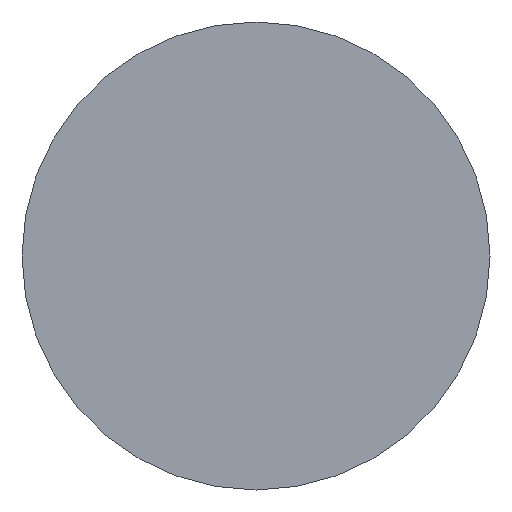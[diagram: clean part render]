
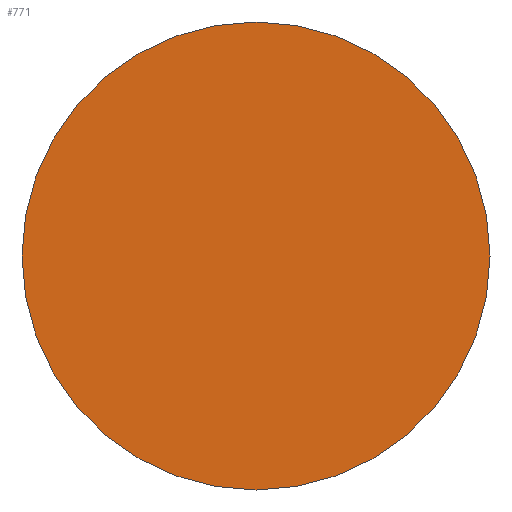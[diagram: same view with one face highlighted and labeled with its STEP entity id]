
A CAD part, left-side view. The second image highlights one B-rep face of the part: STEP entity #771.
In plain terms, the highlighted planar face has unit normal (-1, 0, 0).
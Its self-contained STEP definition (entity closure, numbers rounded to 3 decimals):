
#80=FACE_OUTER_BOUND('',#121,.T.);
#121=EDGE_LOOP('',(#634,#635));
#239=CIRCLE('',#879,2.745);
#240=CIRCLE('',#880,2.745);
#332=VERTEX_POINT('',#1441);
#333=VERTEX_POINT('',#1442);
#441=EDGE_CURVE('',#332,#333,#239,.T.);
#442=EDGE_CURVE('',#333,#332,#240,.T.);
#634=ORIENTED_EDGE('',*,*,#441,.F.);
#635=ORIENTED_EDGE('',*,*,#442,.F.);
#747=PLANE('',#878);
#771=ADVANCED_FACE('',(#80),#747,.T.);
#878=AXIS2_PLACEMENT_3D('',#1440,#1095,#1096);
#879=AXIS2_PLACEMENT_3D('',#1443,#1097,#1098);
#880=AXIS2_PLACEMENT_3D('',#1444,#1099,#1100);
#1095=DIRECTION('center_axis',(-1.,0.,0.));
#1096=DIRECTION('ref_axis',(0.,0.,1.));
#1097=DIRECTION('center_axis',(1.,0.,0.));
#1098=DIRECTION('ref_axis',(0.,0.,-1.));
#1099=DIRECTION('center_axis',(1.,0.,0.));
#1100=DIRECTION('ref_axis',(0.,0.,-1.));
#1440=CARTESIAN_POINT('Origin',(0.,2.745,0.));
#1441=CARTESIAN_POINT('',(0.,2.745,0.));
#1442=CARTESIAN_POINT('',(0.,-2.745,0.));
#1443=CARTESIAN_POINT('Origin',(0.,0.,0.));
#1444=CARTESIAN_POINT('Origin',(0.,0.,0.));
